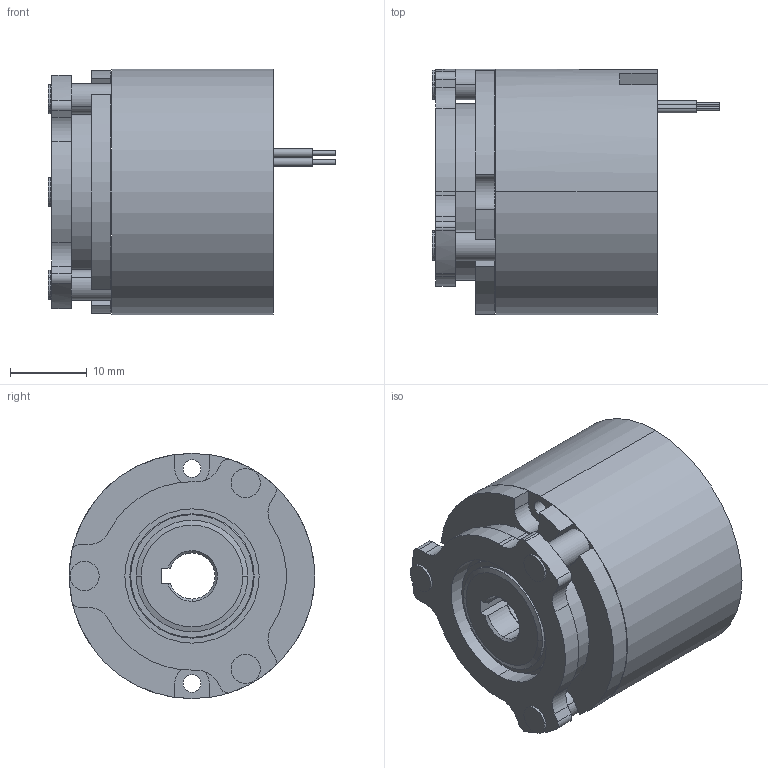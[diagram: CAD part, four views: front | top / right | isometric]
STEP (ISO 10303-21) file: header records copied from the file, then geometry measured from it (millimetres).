
FILE_DESCRIPTION (( 'STEP AP203' ), '1' );
FILE_NAME ('KS_10103A00_Customer_3D_model_19.12.17.STEP', '2018-01-16T14:08:19', ( '' ), ( '' ), 'SwSTEP 2.0', 'SolidWorks 2015', '' );
FILE_SCHEMA (( 'CONFIG_CONTROL_DESIGN' ));
Length unit declared in the file: millimetre
Products named in the file (1): KS_10103A00_Customer_3D_model_19.12.17
Bounding box: 37.43 x 32 x 32 mm (x, y, z)
Volume: 19465.8 mm3; surface area: 7692.1 mm2
Topology: 2 solids, 2 shells, 146 faces, 368 edges, 238 vertices
Faces by surface type: cylinder 84, plane 42, cone 16, bspline 2, torus 2
Entity records: 4553 total; most frequent: DIRECTION 838, CARTESIAN_POINT 797, ORIENTED_EDGE 728, EDGE_CURVE 364, AXIS2_PLACEMENT_3D 335, VERTEX_POINT 238, CIRCLE 190, EDGE_LOOP 174
